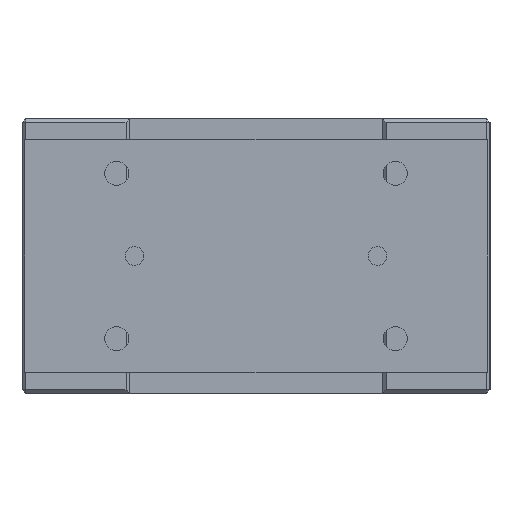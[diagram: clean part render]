
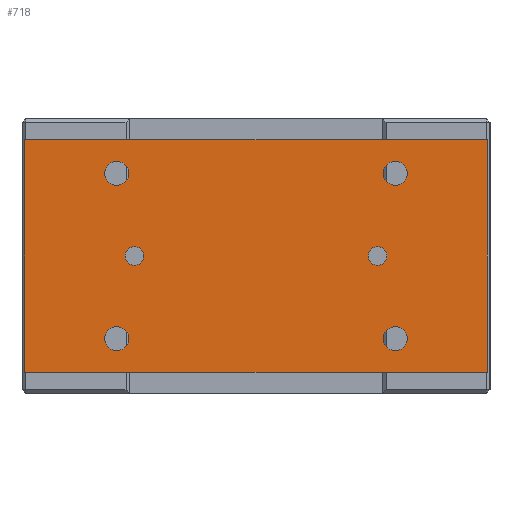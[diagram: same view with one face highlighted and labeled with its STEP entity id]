
A CAD part, left-side view. The second image highlights one B-rep face of the part: STEP entity #718.
In plain terms, the highlighted planar face has unit normal (-1, 0, 0).
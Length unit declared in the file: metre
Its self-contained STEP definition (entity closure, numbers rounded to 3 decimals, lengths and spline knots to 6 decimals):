
#718 = ADVANCED_FACE( '', ( #1580, #1581, #1582, #1583, #1584, #1585, #1586 ), #1587, .T. );
#1580 = FACE_BOUND( '', #2474, .T. );
#1581 = FACE_BOUND( '', #2475, .T. );
#1582 = FACE_BOUND( '', #2476, .T. );
#1583 = FACE_BOUND( '', #2477, .T. );
#1584 = FACE_BOUND( '', #2478, .T. );
#1585 = FACE_BOUND( '', #2479, .T. );
#1586 = FACE_OUTER_BOUND( '', #2480, .T. );
#1587 = PLANE( '', #2481 );
#2474 = EDGE_LOOP( '', ( #4178 ) );
#2475 = EDGE_LOOP( '', ( #4179 ) );
#2476 = EDGE_LOOP( '', ( #4180 ) );
#2477 = EDGE_LOOP( '', ( #4181 ) );
#2478 = EDGE_LOOP( '', ( #4182 ) );
#2479 = EDGE_LOOP( '', ( #4183 ) );
#2480 = EDGE_LOOP( '', ( #4184, #4185, #4186, #4187 ) );
#2481 = AXIS2_PLACEMENT_3D( '', #4188, #4189, #4190 );
#4178 = ORIENTED_EDGE( '', *, *, #4915, .F. );
#4179 = ORIENTED_EDGE( '', *, *, #4701, .T. );
#4180 = ORIENTED_EDGE( '', *, *, #4901, .F. );
#4181 = ORIENTED_EDGE( '', *, *, #4515, .F. );
#4182 = ORIENTED_EDGE( '', *, *, #4630, .F. );
#4183 = ORIENTED_EDGE( '', *, *, #4593, .F. );
#4184 = ORIENTED_EDGE( '', *, *, #4654, .T. );
#4185 = ORIENTED_EDGE( '', *, *, #4916, .T. );
#4186 = ORIENTED_EDGE( '', *, *, #4496, .T. );
#4187 = ORIENTED_EDGE( '', *, *, #4911, .T. );
#4188 = CARTESIAN_POINT( '', ( -0.143, -0.1245, -0.0115 ) );
#4189 = DIRECTION( '', ( -1., 0., 0. ) );
#4190 = DIRECTION( '', ( 0., 0., 1. ) );
#4496 = EDGE_CURVE( '', #5270, #5268, #5271, .T. );
#4515 = EDGE_CURVE( '', #5300, #5300, #5301, .T. );
#4593 = EDGE_CURVE( '', #5424, #5424, #5425, .T. );
#4630 = EDGE_CURVE( '', #5475, #5475, #5476, .T. );
#4654 = EDGE_CURVE( '', #5507, #5505, #5508, .T. );
#4701 = EDGE_CURVE( '', #5578, #5578, #5579, .T. );
#4901 = EDGE_CURVE( '', #5827, #5827, #5828, .T. );
#4911 = EDGE_CURVE( '', #5268, #5507, #5839, .T. );
#4915 = EDGE_CURVE( '', #5843, #5843, #5844, .T. );
#4916 = EDGE_CURVE( '', #5505, #5270, #5845, .T. );
#5268 = VERTEX_POINT( '', #6373 );
#5270 = VERTEX_POINT( '', #6376 );
#5271 = LINE( '', #6377, #6378 );
#5300 = VERTEX_POINT( '', #6419 );
#5301 = CIRCLE( '', #6420, 0.0065 );
#5424 = VERTEX_POINT( '', #6602 );
#5425 = CIRCLE( '', #6603, 0.0065 );
#5475 = VERTEX_POINT( '', #6662 );
#5476 = CIRCLE( '', #6663, 0.0065 );
#5505 = VERTEX_POINT( '', #6734 );
#5507 = VERTEX_POINT( '', #6737 );
#5508 = LINE( '', #6738, #6739 );
#5578 = VERTEX_POINT( '', #6896 );
#5579 = CIRCLE( '', #6897, 0.005 );
#5827 = VERTEX_POINT( '', #7268 );
#5828 = CIRCLE( '', #7269, 0.0065 );
#5839 = LINE( '', #7282, #7283 );
#5843 = VERTEX_POINT( '', #7287 );
#5844 = CIRCLE( '', #7288, 0.005 );
#5845 = LINE( '', #7289, #7290 );
#6373 = CARTESIAN_POINT( '', ( -0.143, 0.1245, -0.1365 ) );
#6376 = CARTESIAN_POINT( '', ( -0.143, 0.1245, -0.0115 ) );
#6377 = CARTESIAN_POINT( '', ( -0.143, 0.1245, -0.0115 ) );
#6378 = VECTOR( '', #7537, 1. );
#6419 = CARTESIAN_POINT( '', ( -0.143, 0.075, -0.112 ) );
#6420 = AXIS2_PLACEMENT_3D( '', #7553, #7554, #7555 );
#6602 = CARTESIAN_POINT( '', ( -0.143, 0.075, -0.023 ) );
#6603 = AXIS2_PLACEMENT_3D( '', #7666, #7667, #7668 );
#6662 = CARTESIAN_POINT( '', ( -0.143, -0.075, -0.023 ) );
#6663 = AXIS2_PLACEMENT_3D( '', #7711, #7712, #7713 );
#6734 = CARTESIAN_POINT( '', ( -0.143, -0.1245, -0.0115 ) );
#6737 = CARTESIAN_POINT( '', ( -0.143, -0.1245, -0.1365 ) );
#6738 = CARTESIAN_POINT( '', ( -0.143, -0.1245, -0.1365 ) );
#6739 = VECTOR( '', #7730, 1. );
#6896 = CARTESIAN_POINT( '', ( -0.143, 0.0705, -0.074 ) );
#6897 = AXIS2_PLACEMENT_3D( '', #7782, #7783, #7784 );
#7268 = CARTESIAN_POINT( '', ( -0.143, -0.075, -0.112 ) );
#7269 = AXIS2_PLACEMENT_3D( '', #7944, #7945, #7946 );
#7282 = CARTESIAN_POINT( '', ( -0.143, 0.1245, -0.1365 ) );
#7283 = VECTOR( '', #7952, 1. );
#7287 = CARTESIAN_POINT( '', ( -0.143, -0.0705, -0.074 ) );
#7288 = AXIS2_PLACEMENT_3D( '', #7953, #7954, #7955 );
#7289 = CARTESIAN_POINT( '', ( -0.143, -0.1245, -0.0115 ) );
#7290 = VECTOR( '', #7956, 1. );
#7537 = DIRECTION( '', ( 0., 0., -1. ) );
#7553 = CARTESIAN_POINT( '', ( -0.143, 0.075, -0.1185 ) );
#7554 = DIRECTION( '', ( -1., 0., 0. ) );
#7555 = DIRECTION( '', ( 0., 0., 1. ) );
#7666 = CARTESIAN_POINT( '', ( -0.143, 0.075, -0.0295 ) );
#7667 = DIRECTION( '', ( -1., 0., 0. ) );
#7668 = DIRECTION( '', ( 0., 0., 1. ) );
#7711 = CARTESIAN_POINT( '', ( -0.143, -0.075, -0.0295 ) );
#7712 = DIRECTION( '', ( -1., 0., 0. ) );
#7713 = DIRECTION( '', ( 0., 0., 1. ) );
#7730 = DIRECTION( '', ( 0., 0., 1. ) );
#7782 = CARTESIAN_POINT( '', ( -0.143, 0.0655, -0.074 ) );
#7783 = DIRECTION( '', ( 1., 0., 0. ) );
#7784 = DIRECTION( '', ( 0., 1., 0. ) );
#7944 = CARTESIAN_POINT( '', ( -0.143, -0.075, -0.1185 ) );
#7945 = DIRECTION( '', ( -1., 0., 0. ) );
#7946 = DIRECTION( '', ( 0., 0., 1. ) );
#7952 = DIRECTION( '', ( 0., -1., 0. ) );
#7953 = CARTESIAN_POINT( '', ( -0.143, -0.0655, -0.074 ) );
#7954 = DIRECTION( '', ( -1., 0., 0. ) );
#7955 = DIRECTION( '', ( 0., -1., 0. ) );
#7956 = DIRECTION( '', ( 0., 1., 0. ) );
